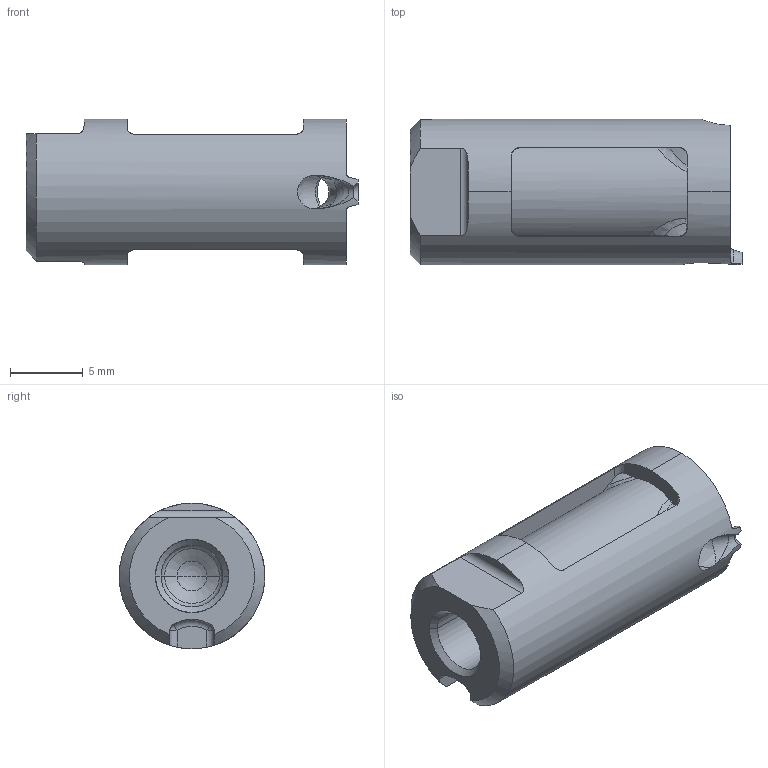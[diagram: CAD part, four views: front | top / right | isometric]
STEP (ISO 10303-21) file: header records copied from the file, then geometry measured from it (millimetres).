
FILE_DESCRIPTION((''),'2;1');
FILE_NAME('TGR10-08-S2','2004-03-24T',('tmeister'),(''),'PRO/ENGINEER BY PARAMETRIC TECHNOLOGY CORPORATION, 2002270','PRO/ENGINEER BY PARAMETRIC TECHNOLOGY CORPORATION, 2002270','');
FILE_SCHEMA(('CONFIG_CONTROL_DESIGN'));
Length unit declared in the file: millimetre
Products named in the file (1): TGR10-08-S2
Bounding box: 22.8 x 10 x 10 mm (x, y, z)
Volume: 1228.8 mm3; surface area: 1415.2 mm2
Topology: 1 solids, 2 shells, 80 faces, 284 edges, 205 vertices
Faces by surface type: bspline 20, plane 18, cylinder 17, cone 16, sphere 5, torus 4
Entity records: 5210 total; most frequent: CARTESIAN_POINT 3201, ORIENTED_EDGE 422, DIRECTION 300, EDGE_CURVE 213, B_SPLINE_CURVE_WITH_KNOTS 154, VERTEX_POINT 136, AXIS2_PLACEMENT_3D 112, EDGE_LOOP 83
